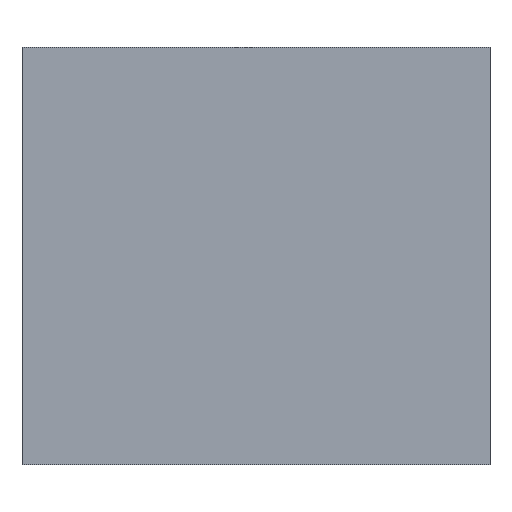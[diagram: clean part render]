
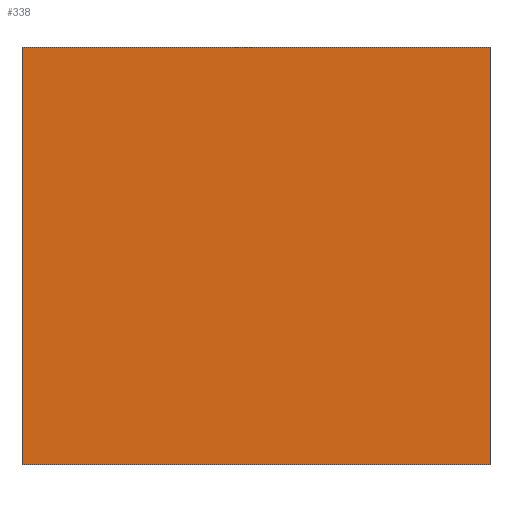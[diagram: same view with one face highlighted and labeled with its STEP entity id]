
A CAD part, top view. The second image highlights one B-rep face of the part: STEP entity #338.
In plain terms, the highlighted planar face has unit normal (0, 0, 1).
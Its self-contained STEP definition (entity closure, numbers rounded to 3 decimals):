
#24 = VERTEX_POINT('',#25);
#25 = CARTESIAN_POINT('',(-100.,-192.5,-200.));
#32 = PLANE('',#33);
#33 = AXIS2_PLACEMENT_3D('',#34,#35,#36);
#34 = CARTESIAN_POINT('',(-100.,-192.5,-218.));
#35 = DIRECTION('',(0.,1.,0.));
#36 = DIRECTION('',(1.,0.,0.));
#44 = PLANE('',#45);
#45 = AXIS2_PLACEMENT_3D('',#46,#47,#48);
#46 = CARTESIAN_POINT('',(-100.,57.5,-218.));
#47 = DIRECTION('',(1.,0.,-0.));
#48 = DIRECTION('',(0.,-1.,0.));
#56 = EDGE_CURVE('',#24,#57,#59,.T.);
#57 = VERTEX_POINT('',#58);
#58 = CARTESIAN_POINT('',(180.,-192.5,-200.));
#59 = SURFACE_CURVE('',#60,(#64,#71),.PCURVE_S1.);
#60 = LINE('',#61,#62);
#61 = CARTESIAN_POINT('',(-100.,-192.5,-200.));
#62 = VECTOR('',#63,1.);
#63 = DIRECTION('',(1.,0.,0.));
#64 = PCURVE('',#32,#65);
#65 = DEFINITIONAL_REPRESENTATION('',(#66),#70);
#66 = LINE('',#67,#68);
#67 = CARTESIAN_POINT('',(0.,-18.));
#68 = VECTOR('',#69,1.);
#69 = DIRECTION('',(1.,0.));
#70 = ( GEOMETRIC_REPRESENTATION_CONTEXT(2) 
PARAMETRIC_REPRESENTATION_CONTEXT() REPRESENTATION_CONTEXT('2D SPACE',''
  ) );
#71 = PCURVE('',#72,#77);
#72 = PLANE('',#73);
#73 = AXIS2_PLACEMENT_3D('',#74,#75,#76);
#74 = CARTESIAN_POINT('',(40.,-67.5,-200.));
#75 = DIRECTION('',(0.,0.,1.));
#76 = DIRECTION('',(1.,0.,-0.));
#77 = DEFINITIONAL_REPRESENTATION('',(#78),#82);
#78 = LINE('',#79,#80);
#79 = CARTESIAN_POINT('',(-140.,-125.));
#80 = VECTOR('',#81,1.);
#81 = DIRECTION('',(1.,0.));
#82 = ( GEOMETRIC_REPRESENTATION_CONTEXT(2) 
PARAMETRIC_REPRESENTATION_CONTEXT() REPRESENTATION_CONTEXT('2D SPACE',''
  ) );
#100 = PLANE('',#101);
#101 = AXIS2_PLACEMENT_3D('',#102,#103,#104);
#102 = CARTESIAN_POINT('',(180.,-192.5,-218.));
#103 = DIRECTION('',(-1.,0.,0.));
#104 = DIRECTION('',(0.,1.,0.));
#142 = EDGE_CURVE('',#57,#143,#145,.T.);
#143 = VERTEX_POINT('',#144);
#144 = CARTESIAN_POINT('',(180.,57.5,-200.));
#145 = SURFACE_CURVE('',#146,(#150,#157),.PCURVE_S1.);
#146 = LINE('',#147,#148);
#147 = CARTESIAN_POINT('',(180.,-192.5,-200.));
#148 = VECTOR('',#149,1.);
#149 = DIRECTION('',(0.,1.,0.));
#150 = PCURVE('',#100,#151);
#151 = DEFINITIONAL_REPRESENTATION('',(#152),#156);
#152 = LINE('',#153,#154);
#153 = CARTESIAN_POINT('',(0.,-18.));
#154 = VECTOR('',#155,1.);
#155 = DIRECTION('',(1.,0.));
#156 = ( GEOMETRIC_REPRESENTATION_CONTEXT(2) 
PARAMETRIC_REPRESENTATION_CONTEXT() REPRESENTATION_CONTEXT('2D SPACE',''
  ) );
#157 = PCURVE('',#72,#158);
#158 = DEFINITIONAL_REPRESENTATION('',(#159),#163);
#159 = LINE('',#160,#161);
#160 = CARTESIAN_POINT('',(140.,-125.));
#161 = VECTOR('',#162,1.);
#162 = DIRECTION('',(0.,1.));
#163 = ( GEOMETRIC_REPRESENTATION_CONTEXT(2) 
PARAMETRIC_REPRESENTATION_CONTEXT() REPRESENTATION_CONTEXT('2D SPACE',''
  ) );
#181 = PLANE('',#182);
#182 = AXIS2_PLACEMENT_3D('',#183,#184,#185);
#183 = CARTESIAN_POINT('',(180.,57.5,-218.));
#184 = DIRECTION('',(0.,-1.,0.));
#185 = DIRECTION('',(-1.,0.,0.));
#218 = EDGE_CURVE('',#143,#219,#221,.T.);
#219 = VERTEX_POINT('',#220);
#220 = CARTESIAN_POINT('',(-100.,57.5,-200.));
#221 = SURFACE_CURVE('',#222,(#226,#233),.PCURVE_S1.);
#222 = LINE('',#223,#224);
#223 = CARTESIAN_POINT('',(180.,57.5,-200.));
#224 = VECTOR('',#225,1.);
#225 = DIRECTION('',(-1.,0.,0.));
#226 = PCURVE('',#181,#227);
#227 = DEFINITIONAL_REPRESENTATION('',(#228),#232);
#228 = LINE('',#229,#230);
#229 = CARTESIAN_POINT('',(0.,-18.));
#230 = VECTOR('',#231,1.);
#231 = DIRECTION('',(1.,0.));
#232 = ( GEOMETRIC_REPRESENTATION_CONTEXT(2) 
PARAMETRIC_REPRESENTATION_CONTEXT() REPRESENTATION_CONTEXT('2D SPACE',''
  ) );
#233 = PCURVE('',#72,#234);
#234 = DEFINITIONAL_REPRESENTATION('',(#235),#239);
#235 = LINE('',#236,#237);
#236 = CARTESIAN_POINT('',(140.,125.));
#237 = VECTOR('',#238,1.);
#238 = DIRECTION('',(-1.,0.));
#239 = ( GEOMETRIC_REPRESENTATION_CONTEXT(2) 
PARAMETRIC_REPRESENTATION_CONTEXT() REPRESENTATION_CONTEXT('2D SPACE',''
  ) );
#289 = EDGE_CURVE('',#219,#24,#290,.T.);
#290 = SURFACE_CURVE('',#291,(#295,#302),.PCURVE_S1.);
#291 = LINE('',#292,#293);
#292 = CARTESIAN_POINT('',(-100.,57.5,-200.));
#293 = VECTOR('',#294,1.);
#294 = DIRECTION('',(0.,-1.,0.));
#295 = PCURVE('',#44,#296);
#296 = DEFINITIONAL_REPRESENTATION('',(#297),#301);
#297 = LINE('',#298,#299);
#298 = CARTESIAN_POINT('',(0.,-18.));
#299 = VECTOR('',#300,1.);
#300 = DIRECTION('',(1.,0.));
#301 = ( GEOMETRIC_REPRESENTATION_CONTEXT(2) 
PARAMETRIC_REPRESENTATION_CONTEXT() REPRESENTATION_CONTEXT('2D SPACE',''
  ) );
#302 = PCURVE('',#72,#303);
#303 = DEFINITIONAL_REPRESENTATION('',(#304),#308);
#304 = LINE('',#305,#306);
#305 = CARTESIAN_POINT('',(-140.,125.));
#306 = VECTOR('',#307,1.);
#307 = DIRECTION('',(0.,-1.));
#308 = ( GEOMETRIC_REPRESENTATION_CONTEXT(2) 
PARAMETRIC_REPRESENTATION_CONTEXT() REPRESENTATION_CONTEXT('2D SPACE',''
  ) );
#338 = ADVANCED_FACE('',(#339),#72,.T.);
#339 = FACE_BOUND('',#340,.T.);
#340 = EDGE_LOOP('',(#341,#342,#343,#344));
#341 = ORIENTED_EDGE('',*,*,#56,.T.);
#342 = ORIENTED_EDGE('',*,*,#142,.T.);
#343 = ORIENTED_EDGE('',*,*,#218,.T.);
#344 = ORIENTED_EDGE('',*,*,#289,.T.);
